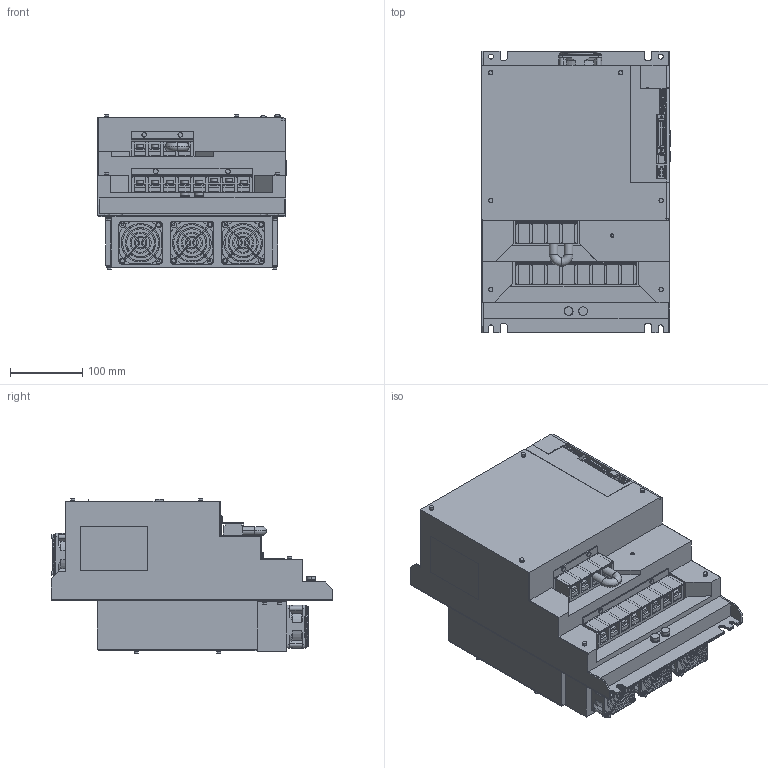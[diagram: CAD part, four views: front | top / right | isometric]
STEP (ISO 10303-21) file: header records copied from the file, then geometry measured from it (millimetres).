
FILE_DESCRIPTION (( 'STEP AP203' ), '1' );
FILE_NAME ('sgd7s_780a00a001.STEP', '2015-10-16T04:24:35', ( '匠エンジニアリング山之内' ), ( 'TAKUMI-Engniaring' ), 'SwSTEP 2.0', 'SolidWorks 2006303', '' );
FILE_SCHEMA (( 'CONFIG_CONTROL_DESIGN' ));
Length unit declared in the file: millimetre
Products named in the file (8): sgd7s_780a00a001_cover3; sgd7s_780a00a001_cover4; sgd7s_780a00a001; sgd7s_780a00a001_base; sgd7s_780a00a001_cover; sgd7s_780a00a001_cover2; sgd7s_780a00a001_connector; sgd7s_780a00a001_terminal
Assembly tree (8 placements, depth 2):
  sgd7s_780a00a001
    sgd7s_780a00a001_cover4
    sgd7s_780a00a001_cover3
    sgd7s_780a00a001_connector
    sgd7s_780a00a001_cover2  x2
    sgd7s_780a00a001_base
    sgd7s_780a00a001_terminal
    sgd7s_780a00a001_cover
Bounding box: 260.6 x 390 x 214.6 mm (x, y, z)
Volume: 12103753.8 mm3; surface area: 1084646.9 mm2
Topology: 8 solids, 8 shells, 2742 faces, 7749 edges, 5099 vertices
Faces by surface type: plane 2010, cylinder 659, cone 68, torus 4, sphere 1
Entity records: 89119 total; most frequent: CARTESIAN_POINT 15946, ORIENTED_EDGE 15390, DIRECTION 14715, EDGE_CURVE 7695, VECTOR 5883, LINE 5883, VERTEX_POINT 5063, AXIS2_PLACEMENT_3D 4416
